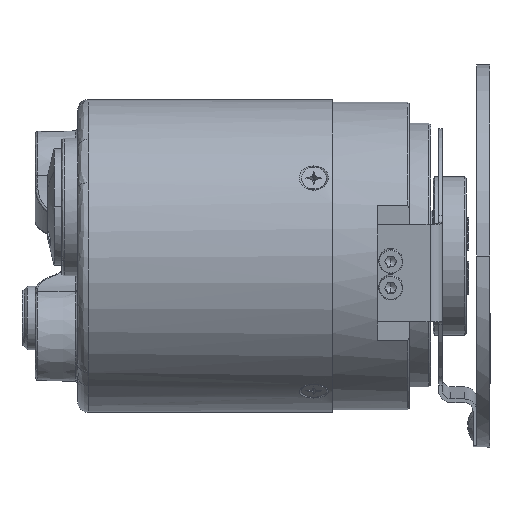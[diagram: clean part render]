
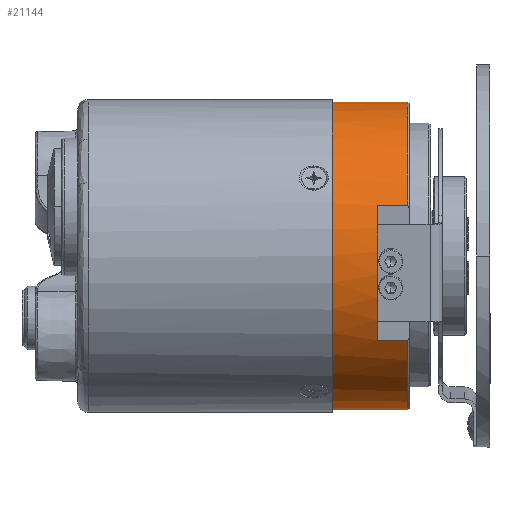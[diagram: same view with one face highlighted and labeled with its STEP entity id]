
A CAD part, front view. The second image highlights one B-rep face of the part: STEP entity #21144.
In plain terms, the highlighted cylindrical face has radius 29 mm (diameter 58 mm), a partial arc.
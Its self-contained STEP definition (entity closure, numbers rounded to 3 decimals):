
#154 = CARTESIAN_POINT ( 'NONE',  ( 21.7, -24.241, -15.918 ) ) ;
#808 = DIRECTION ( 'NONE',  ( -1., 0., 0. ) ) ;
#1165 = CARTESIAN_POINT ( 'NONE',  ( 7.5, 0., -29. ) ) ;
#1685 = VERTEX_POINT ( 'NONE', #15169 ) ;
#1704 = CARTESIAN_POINT ( 'NONE',  ( 21.7, 0., -29. ) ) ;
#2412 = DIRECTION ( 'NONE',  ( -1., 0., 0. ) ) ;
#2683 = VERTEX_POINT ( 'NONE', #16830 ) ;
#2852 = EDGE_CURVE ( 'NONE', #8479, #21581, #29936, .T. ) ;
#4221 = ORIENTED_EDGE ( 'NONE', *, *, #30243, .T. ) ;
#4643 = CARTESIAN_POINT ( 'NONE',  ( -1.393, -24.241, -15.918 ) ) ;
#5230 = CARTESIAN_POINT ( 'NONE',  ( -1.393, -27.372, 9.581 ) ) ;
#5730 = DIRECTION ( 'NONE',  ( -1., 0., 0. ) ) ;
#7130 = AXIS2_PLACEMENT_3D ( 'NONE', #23393, #25584, #11290 ) ;
#7694 = DIRECTION ( 'NONE',  ( -1., 0., 0. ) ) ;
#8010 = CARTESIAN_POINT ( 'NONE',  ( -1.393, 0., 29. ) ) ;
#8479 = VERTEX_POINT ( 'NONE', #1704 ) ;
#8586 = DIRECTION ( 'NONE',  ( 1., 0., 0. ) ) ;
#8897 = VECTOR ( 'NONE', #7694, 1000. ) ;
#8940 = CARTESIAN_POINT ( 'NONE',  ( 16., -27.372, 9.581 ) ) ;
#9384 = EDGE_CURVE ( 'NONE', #1685, #28189, #23829, .T. ) ;
#10342 = CARTESIAN_POINT ( 'NONE',  ( -1.393, 0., 0. ) ) ;
#10589 = CIRCLE ( 'NONE', #7130, 29. ) ;
#10883 = CARTESIAN_POINT ( 'NONE',  ( 7.5, 0., 0. ) ) ;
#11073 = AXIS2_PLACEMENT_3D ( 'NONE', #15345, #5730, #19850 ) ;
#11290 = DIRECTION ( 'NONE',  ( 0., 0., 1. ) ) ;
#11847 = CARTESIAN_POINT ( 'NONE',  ( -1.393, 0., -29. ) ) ;
#13113 = EDGE_CURVE ( 'NONE', #26362, #17657, #10589, .T. ) ;
#15048 = DIRECTION ( 'NONE',  ( -1., 0., 0. ) ) ;
#15169 = CARTESIAN_POINT ( 'NONE',  ( 7.5, 0., 29. ) ) ;
#15345 = CARTESIAN_POINT ( 'NONE',  ( 21.7, 0., 0. ) ) ;
#15977 = ORIENTED_EDGE ( 'NONE', *, *, #24118, .T. ) ;
#16166 = ORIENTED_EDGE ( 'NONE', *, *, #21102, .T. ) ;
#16830 = CARTESIAN_POINT ( 'NONE',  ( 21.7, 0., 29. ) ) ;
#17160 = FACE_OUTER_BOUND ( 'NONE', #20122, .T. ) ;
#17657 = VERTEX_POINT ( 'NONE', #8940 ) ;
#17872 = CARTESIAN_POINT ( 'NONE',  ( 21.7, 0., 0. ) ) ;
#18016 = CIRCLE ( 'NONE', #11073, 29. ) ;
#18132 = AXIS2_PLACEMENT_3D ( 'NONE', #17872, #15048, #22481 ) ;
#18500 = CARTESIAN_POINT ( 'NONE',  ( 16., -24.241, -15.918 ) ) ;
#18620 = ORIENTED_EDGE ( 'NONE', *, *, #26993, .F. ) ;
#18864 = AXIS2_PLACEMENT_3D ( 'NONE', #10883, #8586, #25285 ) ;
#19178 = ORIENTED_EDGE ( 'NONE', *, *, #2852, .T. ) ;
#19850 = DIRECTION ( 'NONE',  ( 0., 0., 1. ) ) ;
#20122 = EDGE_LOOP ( 'NONE', ( #18620, #19178, #4221, #29530, #16166, #15977, #29809, #24646 ) ) ;
#20684 = VECTOR ( 'NONE', #23851, 1000. ) ;
#21102 = EDGE_CURVE ( 'NONE', #17657, #23031, #25371, .T. ) ;
#21144 = ADVANCED_FACE ( 'NONE', ( #17160 ), #29853, .T. ) ;
#21231 = LINE ( 'NONE', #8010, #8897 ) ;
#21581 = VERTEX_POINT ( 'NONE', #154 ) ;
#21659 = VECTOR ( 'NONE', #24641, 1000. ) ;
#21723 = EDGE_CURVE ( 'NONE', #2683, #1685, #21231, .T. ) ;
#22481 = DIRECTION ( 'NONE',  ( 0., 0., 1. ) ) ;
#23031 = VERTEX_POINT ( 'NONE', #28602 ) ;
#23393 = CARTESIAN_POINT ( 'NONE',  ( 16., 0., 0. ) ) ;
#23456 = VECTOR ( 'NONE', #2412, 1000. ) ;
#23829 = CIRCLE ( 'NONE', #18864, 29. ) ;
#23851 = DIRECTION ( 'NONE',  ( -1., 0., 0. ) ) ;
#24118 = EDGE_CURVE ( 'NONE', #23031, #2683, #18016, .T. ) ;
#24535 = DIRECTION ( 'NONE',  ( 0., 0., 1. ) ) ;
#24641 = DIRECTION ( 'NONE',  ( 1., 0., 0. ) ) ;
#24646 = ORIENTED_EDGE ( 'NONE', *, *, #9384, .T. ) ;
#25285 = DIRECTION ( 'NONE',  ( 0., 0., 1. ) ) ;
#25371 = LINE ( 'NONE', #5230, #21659 ) ;
#25584 = DIRECTION ( 'NONE',  ( -1., 0., 0. ) ) ;
#26362 = VERTEX_POINT ( 'NONE', #18500 ) ;
#26993 = EDGE_CURVE ( 'NONE', #8479, #28189, #27190, .T. ) ;
#27190 = LINE ( 'NONE', #11847, #23456 ) ;
#27744 = LINE ( 'NONE', #4643, #20684 ) ;
#28189 = VERTEX_POINT ( 'NONE', #1165 ) ;
#28602 = CARTESIAN_POINT ( 'NONE',  ( 21.7, -27.372, 9.581 ) ) ;
#29530 = ORIENTED_EDGE ( 'NONE', *, *, #13113, .T. ) ;
#29809 = ORIENTED_EDGE ( 'NONE', *, *, #21723, .T. ) ;
#29853 = CYLINDRICAL_SURFACE ( 'NONE', #29992, 29. ) ;
#29936 = CIRCLE ( 'NONE', #18132, 29. ) ;
#29992 = AXIS2_PLACEMENT_3D ( 'NONE', #10342, #808, #24535 ) ;
#30243 = EDGE_CURVE ( 'NONE', #21581, #26362, #27744, .T. ) ;
